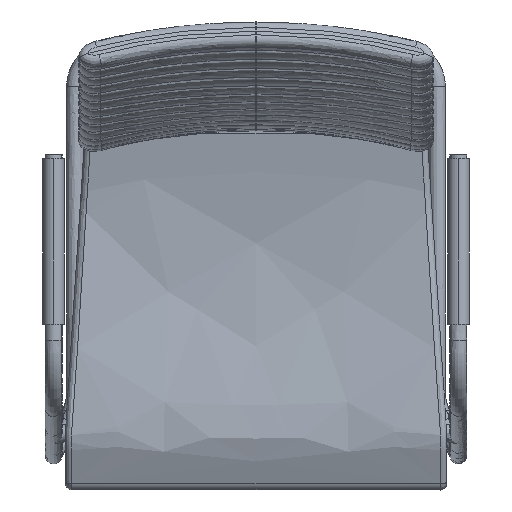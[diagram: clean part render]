
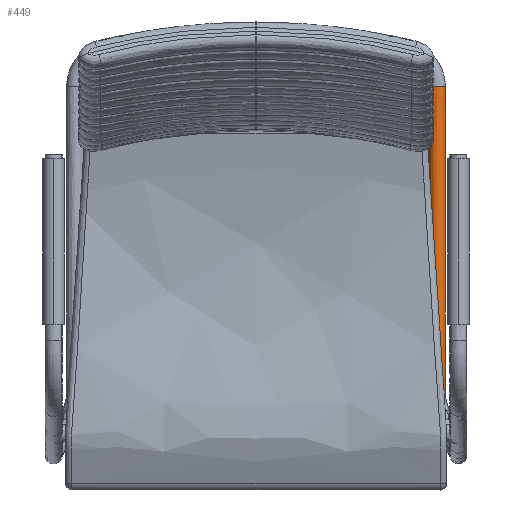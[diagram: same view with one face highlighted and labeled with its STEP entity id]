
A CAD part, top view. The second image highlights one B-rep face of the part: STEP entity #449.
In plain terms, the highlighted free-form (B-spline) face has degree [2, 3] with [5, 4] control points.
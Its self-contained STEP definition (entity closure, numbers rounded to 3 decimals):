
#33=(
BOUNDED_CURVE()
B_SPLINE_CURVE(3,(#14767,#14768,#14769,#14770),.UNSPECIFIED.,.F.,.F.)
B_SPLINE_CURVE_WITH_KNOTS((4,4),(0.,394.593),.UNSPECIFIED.)
CURVE()
GEOMETRIC_REPRESENTATION_ITEM()
RATIONAL_B_SPLINE_CURVE((1.,1.,1.,1.))
REPRESENTATION_ITEM('')
);
#65=(
BOUNDED_CURVE()
B_SPLINE_CURVE(2,(#15107,#15108,#15109,#15110,#15111),.UNSPECIFIED.,.F.,
 .F.)
B_SPLINE_CURVE_WITH_KNOTS((3,2,3),(34.558,51.836,69.115),
 .UNSPECIFIED.)
CURVE()
GEOMETRIC_REPRESENTATION_ITEM()
RATIONAL_B_SPLINE_CURVE((1.,0.707,1.,0.707,1.))
REPRESENTATION_ITEM('')
);
#66=(
BOUNDED_CURVE()
B_SPLINE_CURVE(3,(#15112,#15113,#15114,#15115),.UNSPECIFIED.,.F.,.F.)
B_SPLINE_CURVE_WITH_KNOTS((4,4),(0.,394.593),.UNSPECIFIED.)
CURVE()
GEOMETRIC_REPRESENTATION_ITEM()
RATIONAL_B_SPLINE_CURVE((1.,1.,1.,1.))
REPRESENTATION_ITEM('')
);
#67=(
BOUNDED_CURVE()
B_SPLINE_CURVE(2,(#15116,#15117,#15118,#15119,#15120),.UNSPECIFIED.,.F.,
 .F.)
B_SPLINE_CURVE_WITH_KNOTS((3,2,3),(34.558,51.836,69.115),
 .UNSPECIFIED.)
CURVE()
GEOMETRIC_REPRESENTATION_ITEM()
RATIONAL_B_SPLINE_CURVE((1.,0.707,1.,0.707,1.))
REPRESENTATION_ITEM('')
);
#248=(
BOUNDED_SURFACE()
B_SPLINE_SURFACE(2,3,((#13292,#13293,#13294,#13295),(#13296,#13297,#13298,
#13299),(#13300,#13301,#13302,#13303),(#13304,#13305,#13306,#13307),(#13308,
#13309,#13310,#13311)),.UNSPECIFIED.,.F.,.F.,.F.)
B_SPLINE_SURFACE_WITH_KNOTS((3,2,3),(4,4),(34.558,51.836,
69.115),(0.,394.593),.UNSPECIFIED.)
GEOMETRIC_REPRESENTATION_ITEM()
RATIONAL_B_SPLINE_SURFACE(((1.,1.,1.,1.),(0.707,
0.707,0.707,0.707),(1.,1.,
1.,1.),(0.707,0.707,0.707,0.707),
(1.,1.,1.,1.)))
REPRESENTATION_ITEM('')
SURFACE()
);
#449=ADVANCED_FACE('',(#767),#248,.T.);
#767=FACE_OUTER_BOUND('',#1085,.T.);
#1085=EDGE_LOOP('',(#1709,#1710,#1711,#1712));
#1709=ORIENTED_EDGE('',*,*,#2816,.T.);
#1710=ORIENTED_EDGE('',*,*,#2784,.T.);
#1711=ORIENTED_EDGE('',*,*,#2818,.F.);
#1712=ORIENTED_EDGE('',*,*,#2817,.F.);
#2784=EDGE_CURVE('',#3863,#3864,#33,.T.);
#2816=EDGE_CURVE('',#3880,#3863,#65,.T.);
#2817=EDGE_CURVE('',#3880,#3881,#66,.T.);
#2818=EDGE_CURVE('',#3881,#3864,#67,.T.);
#3863=VERTEX_POINT('',#14706);
#3864=VERTEX_POINT('',#14707);
#3880=VERTEX_POINT('',#14723);
#3881=VERTEX_POINT('',#14724);
#13292=CARTESIAN_POINT('',(246.,215.,15.));
#13293=CARTESIAN_POINT('',(246.,83.469,15.));
#13294=CARTESIAN_POINT('',(246.,-48.062,15.));
#13295=CARTESIAN_POINT('',(246.,-179.593,15.));
#13296=CARTESIAN_POINT('',(246.,215.,26.));
#13297=CARTESIAN_POINT('',(246.,83.469,26.));
#13298=CARTESIAN_POINT('',(246.,-48.062,26.));
#13299=CARTESIAN_POINT('',(246.,-179.593,26.));
#13300=CARTESIAN_POINT('',(235.,215.,26.));
#13301=CARTESIAN_POINT('',(235.,83.469,26.));
#13302=CARTESIAN_POINT('',(235.,-48.062,26.));
#13303=CARTESIAN_POINT('',(235.,-179.593,26.));
#13304=CARTESIAN_POINT('',(224.,215.,26.));
#13305=CARTESIAN_POINT('',(224.,83.469,26.));
#13306=CARTESIAN_POINT('',(224.,-48.062,26.));
#13307=CARTESIAN_POINT('',(224.,-179.593,26.));
#13308=CARTESIAN_POINT('',(224.,215.,15.));
#13309=CARTESIAN_POINT('',(224.,83.469,15.));
#13310=CARTESIAN_POINT('',(224.,-48.062,15.));
#13311=CARTESIAN_POINT('',(224.,-179.593,15.));
#14706=CARTESIAN_POINT('',(224.,215.,15.));
#14707=CARTESIAN_POINT('',(224.,-179.593,15.));
#14723=CARTESIAN_POINT('',(246.,215.,15.));
#14724=CARTESIAN_POINT('',(246.,-179.593,15.));
#14767=CARTESIAN_POINT('',(224.,215.,15.));
#14768=CARTESIAN_POINT('',(224.,83.469,15.));
#14769=CARTESIAN_POINT('',(224.,-48.062,15.));
#14770=CARTESIAN_POINT('',(224.,-179.593,15.));
#15107=CARTESIAN_POINT('',(246.,215.,15.));
#15108=CARTESIAN_POINT('',(246.,215.,26.));
#15109=CARTESIAN_POINT('',(235.,215.,26.));
#15110=CARTESIAN_POINT('',(224.,215.,26.));
#15111=CARTESIAN_POINT('',(224.,215.,15.));
#15112=CARTESIAN_POINT('',(246.,215.,15.));
#15113=CARTESIAN_POINT('',(246.,83.469,15.));
#15114=CARTESIAN_POINT('',(246.,-48.062,15.));
#15115=CARTESIAN_POINT('',(246.,-179.593,15.));
#15116=CARTESIAN_POINT('',(246.,-179.593,15.));
#15117=CARTESIAN_POINT('',(246.,-179.593,26.));
#15118=CARTESIAN_POINT('',(235.,-179.593,26.));
#15119=CARTESIAN_POINT('',(224.,-179.593,26.));
#15120=CARTESIAN_POINT('',(224.,-179.593,15.));
